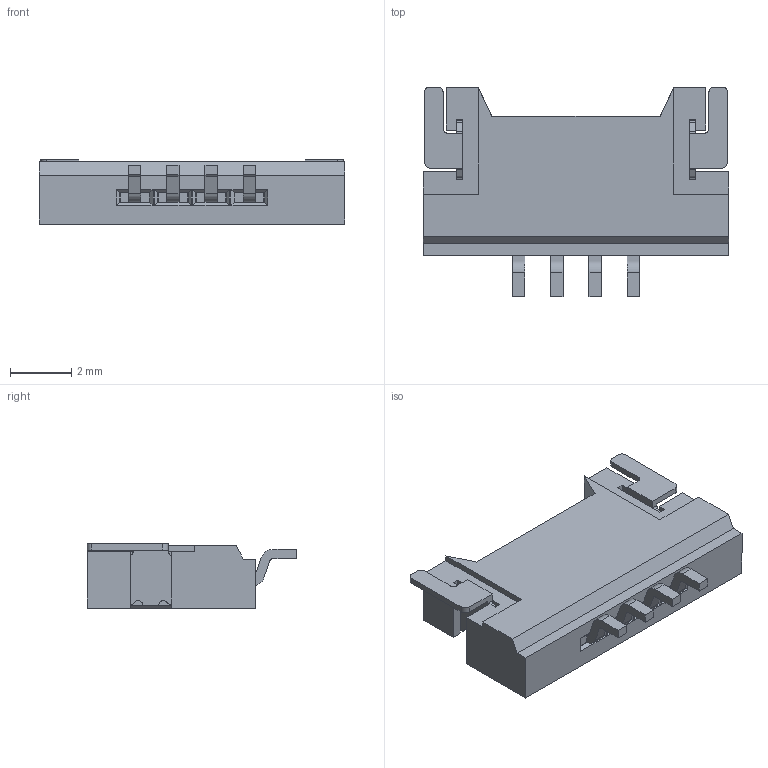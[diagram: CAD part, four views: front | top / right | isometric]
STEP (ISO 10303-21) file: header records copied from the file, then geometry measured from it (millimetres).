
FILE_DESCRIPTION(('CATIA V5 STEP Exchange'),'2;1');
FILE_NAME('\\Erp\共享文件夹\3D文件\小覃\条形连接器-小黄\1.25系列\德利\CB1.25\NPWT\HC-CB1.25-4PWT(1.25 超薄卧贴-HCTL).stp','2025-03-22T06:41:52+00:00',('none'),('none'),'CATIA Version 5 Release 20 GA (IN-10)','CATIA V5 STEP AP203','none');
FILE_SCHEMA(('CONFIG_CONTROL_DESIGN'));
Length unit declared in the file: millimetre
Products named in the file (1): Part2
Bounding box: 10 x 6.85 x 2.1 mm (x, y, z)
Volume: 58.3 mm3; surface area: 277.1 mm2
Topology: 1 solids, 1 shells, 322 faces, 922 edges, 586 vertices
Faces by surface type: plane 258, cylinder 64
Entity records: 9632 total; most frequent: ORIENTED_EDGE 1844, CARTESIAN_POINT 1835, DIRECTION 1238, EDGE_CURVE 922, VECTOR 786, LINE 786, VERTEX_POINT 586, EDGE_LOOP 338
